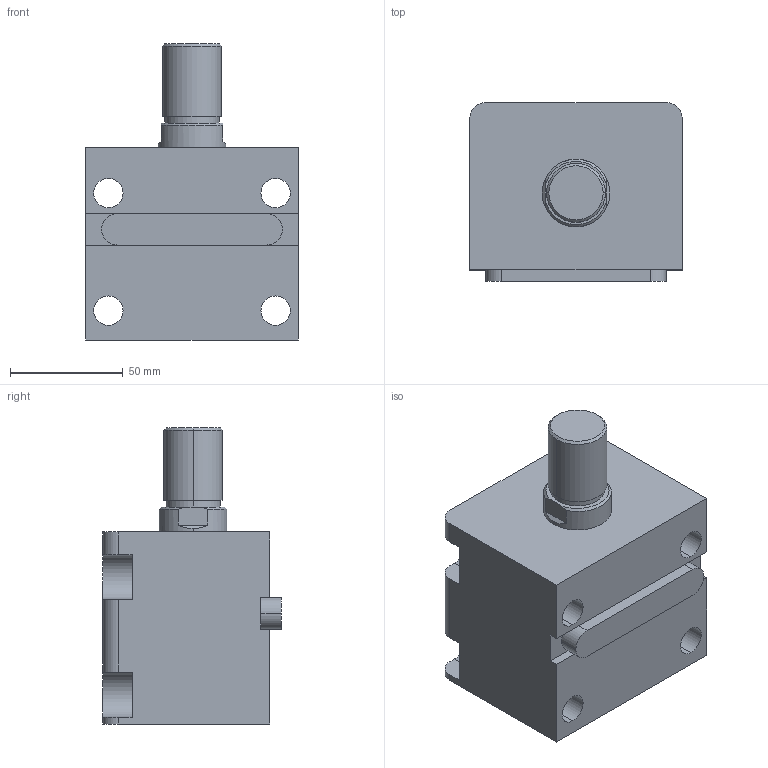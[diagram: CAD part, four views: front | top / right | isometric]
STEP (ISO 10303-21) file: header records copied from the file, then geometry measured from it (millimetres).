
FILE_DESCRIPTION (( 'STEP AP203' ), '1' );
FILE_NAME ('HTB-LA50-25W.STEP', '2019-10-09T07:08:05', ( '微软用户' ), ( '微软中国' ), 'SwSTEP 2.0', 'SolidWorks 2012', '' );
FILE_SCHEMA (( 'CONFIG_CONTROL_DESIGN' ));
Length unit declared in the file: millimetre
Products named in the file (4): HTB-LA50-25W活塞杆; HTB-LA50-瑩; HTB-LA50-25掛极; HTB-LA50-25W
Assembly tree (3 placements, depth 2):
  HTB-LA50-25W
    HTB-LA50-25掛极
    HTB-LA50-25W活塞杆
    HTB-LA50-瑩
Bounding box: 94 x 79 x 131 mm (x, y, z)
Volume: 535573.5 mm3; surface area: 86367.7 mm2
Topology: 3 solids, 3 shells, 90 faces, 219 edges, 144 vertices
Faces by surface type: plane 41, cylinder 37, cone 8, torus 4
Entity records: 3107 total; most frequent: DIRECTION 497, CARTESIAN_POINT 487, ORIENTED_EDGE 438, EDGE_CURVE 219, AXIS2_PLACEMENT_3D 190, VERTEX_POINT 144, LINE 117, VECTOR 117
